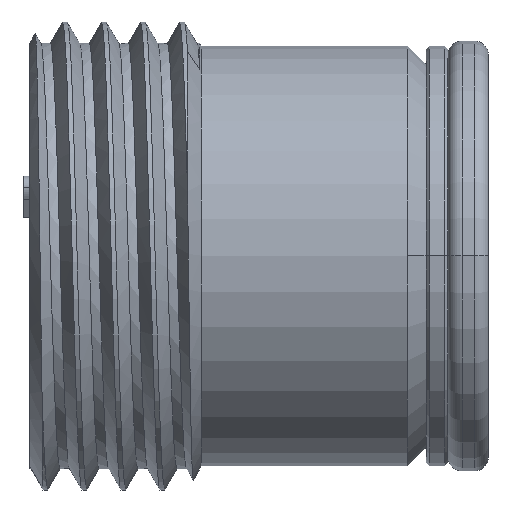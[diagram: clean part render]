
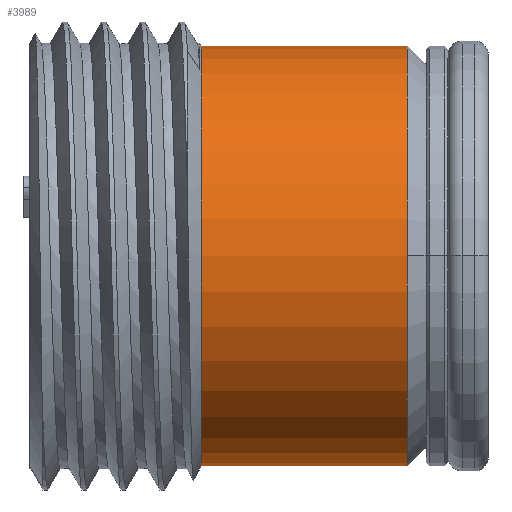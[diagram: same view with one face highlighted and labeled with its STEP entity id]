
A CAD part, top view. The second image highlights one B-rep face of the part: STEP entity #3989.
In plain terms, the highlighted cylindrical face has radius 8.547 mm (diameter 17.094 mm), a partial arc.
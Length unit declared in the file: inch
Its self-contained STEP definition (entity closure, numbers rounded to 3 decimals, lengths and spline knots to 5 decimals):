
#132 = CIRCLE ( 'NONE', #5816, 0.3365 ) ;
#281 = ORIENTED_EDGE ( 'NONE', *, *, #3505, .F. ) ;
#322 = CARTESIAN_POINT ( 'NONE',  ( 26.59748, -14.34327, -3.19847 ) ) ;
#364 = DIRECTION ( 'NONE',  ( -1., 0., 0. ) ) ;
#756 = DIRECTION ( 'NONE',  ( 0., -1., 0. ) ) ;
#850 = DIRECTION ( 'NONE',  ( -1., 0., 0. ) ) ;
#947 = VERTEX_POINT ( 'NONE', #1391 ) ;
#1315 = DIRECTION ( 'NONE',  ( -1., 0., 0. ) ) ;
#1369 = FACE_OUTER_BOUND ( 'NONE', #4541, .T. ) ;
#1391 = CARTESIAN_POINT ( 'NONE',  ( 26.92748, -14.67977, -2.86197 ) ) ;
#1406 = CYLINDRICAL_SURFACE ( 'NONE', #3895, 0.3365 ) ;
#1457 = ORIENTED_EDGE ( 'NONE', *, *, #5975, .F. ) ;
#1583 = CARTESIAN_POINT ( 'NONE',  ( 26.92748, -14.67977, -3.19847 ) ) ;
#1616 = VECTOR ( 'NONE', #364, 39.37008 ) ;
#1864 = DIRECTION ( 'NONE',  ( -1., 0., 0. ) ) ;
#1873 = VERTEX_POINT ( 'NONE', #4694 ) ;
#2312 = DIRECTION ( 'NONE',  ( -1., 0., 0. ) ) ;
#2428 = LINE ( 'NONE', #2465, #1616 ) ;
#2465 = CARTESIAN_POINT ( 'NONE',  ( 26.32248, -14.34327, -3.19847 ) ) ;
#2537 = VERTEX_POINT ( 'NONE', #4052 ) ;
#2604 = DIRECTION ( 'NONE',  ( -1., 0., 0. ) ) ;
#2819 = LINE ( 'NONE', #4906, #5096 ) ;
#2933 = DIRECTION ( 'NONE',  ( 0., -1., 0. ) ) ;
#3363 = VERTEX_POINT ( 'NONE', #4587 ) ;
#3442 = CARTESIAN_POINT ( 'NONE',  ( 26.32248, -14.67977, -3.19847 ) ) ;
#3455 = CIRCLE ( 'NONE', #6755, 0.3365 ) ;
#3505 = EDGE_CURVE ( 'NONE', #3363, #1873, #2819, .T. ) ;
#3780 = EDGE_CURVE ( 'NONE', #3363, #947, #4229, .T. ) ;
#3895 = AXIS2_PLACEMENT_3D ( 'NONE', #3442, #850, #2933 ) ;
#3941 = EDGE_CURVE ( 'NONE', #2537, #5871, #2428, .T. ) ;
#3989 = ADVANCED_FACE ( 'NONE', ( #1369 ), #1406, .T. ) ;
#4049 = EDGE_CURVE ( 'NONE', #947, #2537, #3455, .T. ) ;
#4052 = CARTESIAN_POINT ( 'NONE',  ( 26.92748, -14.34327, -3.19847 ) ) ;
#4229 = CIRCLE ( 'NONE', #4551, 0.3365 ) ;
#4357 = DIRECTION ( 'NONE',  ( 0., 0., 1. ) ) ;
#4541 = EDGE_LOOP ( 'NONE', ( #4840, #6043, #5040, #1457, #281 ) ) ;
#4551 = AXIS2_PLACEMENT_3D ( 'NONE', #1583, #2604, #5330 ) ;
#4587 = CARTESIAN_POINT ( 'NONE',  ( 26.92748, -15.01627, -3.19847 ) ) ;
#4694 = CARTESIAN_POINT ( 'NONE',  ( 26.59748, -15.01627, -3.19847 ) ) ;
#4840 = ORIENTED_EDGE ( 'NONE', *, *, #3780, .T. ) ;
#4906 = CARTESIAN_POINT ( 'NONE',  ( 26.32248, -15.01627, -3.19847 ) ) ;
#5040 = ORIENTED_EDGE ( 'NONE', *, *, #3941, .T. ) ;
#5096 = VECTOR ( 'NONE', #1315, 39.37008 ) ;
#5330 = DIRECTION ( 'NONE',  ( 0., 0., 1. ) ) ;
#5816 = AXIS2_PLACEMENT_3D ( 'NONE', #6658, #1864, #756 ) ;
#5871 = VERTEX_POINT ( 'NONE', #322 ) ;
#5975 = EDGE_CURVE ( 'NONE', #1873, #5871, #132, .T. ) ;
#6043 = ORIENTED_EDGE ( 'NONE', *, *, #4049, .T. ) ;
#6459 = CARTESIAN_POINT ( 'NONE',  ( 26.92748, -14.67977, -3.19847 ) ) ;
#6658 = CARTESIAN_POINT ( 'NONE',  ( 26.59748, -14.67977, -3.19847 ) ) ;
#6755 = AXIS2_PLACEMENT_3D ( 'NONE', #6459, #2312, #4357 ) ;
